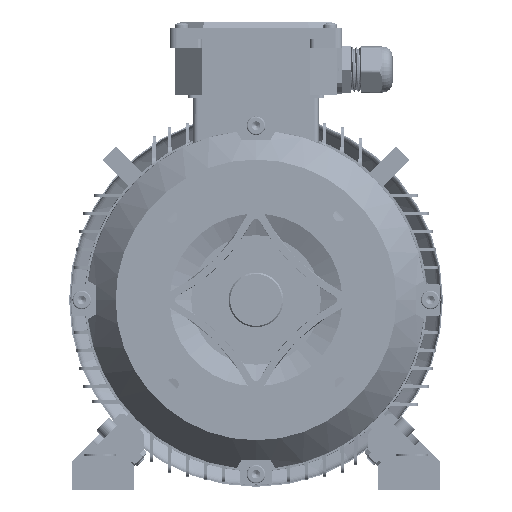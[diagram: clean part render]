
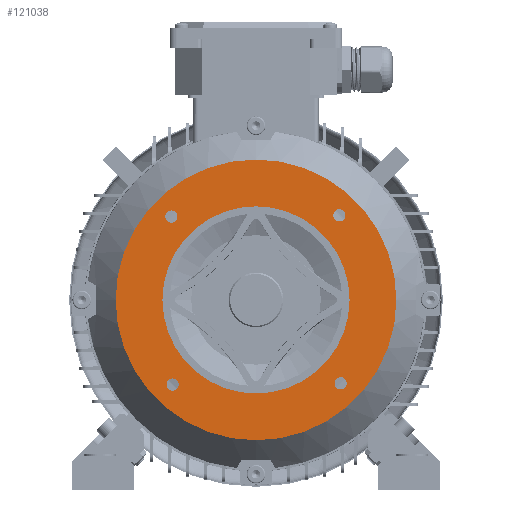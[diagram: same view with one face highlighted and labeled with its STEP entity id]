
A CAD part, front view. The second image highlights one B-rep face of the part: STEP entity #121038.
In plain terms, the highlighted planar face has unit normal (0, -1, 0).
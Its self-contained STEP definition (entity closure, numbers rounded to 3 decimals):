
#392 = DIRECTION ( 'NONE',  ( 0., -1., 0. ) ) ;
#883 = ORIENTED_EDGE ( 'NONE', *, *, #70312, .F. ) ;
#1687 = ORIENTED_EDGE ( 'NONE', *, *, #24263, .T. ) ;
#1729 = CIRCLE ( 'NONE', #34047, 97.5 ) ;
#2086 = VERTEX_POINT ( 'NONE', #39358 ) ;
#2671 = ORIENTED_EDGE ( 'NONE', *, *, #42822, .F. ) ;
#4557 = FACE_BOUND ( 'NONE', #40240, .T. ) ;
#6941 = EDGE_CURVE ( 'NONE', #78779, #116863, #59538, .T. ) ;
#7973 = EDGE_CURVE ( 'NONE', #116863, #78779, #114169, .T. ) ;
#10746 = DIRECTION ( 'NONE',  ( 0., -1., 0. ) ) ;
#11420 = ORIENTED_EDGE ( 'NONE', *, *, #45330, .F. ) ;
#12735 = EDGE_LOOP ( 'NONE', ( #109803, #90464 ) ) ;
#17352 = DIRECTION ( 'NONE',  ( 0., -1., 0. ) ) ;
#17660 = DIRECTION ( 'NONE',  ( 0., -1., 0. ) ) ;
#18830 = DIRECTION ( 'NONE',  ( 0., -1., 0. ) ) ;
#19884 = VERTEX_POINT ( 'NONE', #52009 ) ;
#19979 = VERTEX_POINT ( 'NONE', #120000 ) ;
#23444 = AXIS2_PLACEMENT_3D ( 'NONE', #101261, #35581, #112327 ) ;
#24263 = EDGE_CURVE ( 'NONE', #106364, #41618, #1729, .T. ) ;
#24950 = DIRECTION ( 'NONE',  ( 0., -1., 0. ) ) ;
#29500 = CARTESIAN_POINT ( 'NONE',  ( -58.783, 3.5, 57.886 ) ) ;
#33642 = FACE_BOUND ( 'NONE', #121980, .T. ) ;
#34047 = AXIS2_PLACEMENT_3D ( 'NONE', #84430, #18830, #95501 ) ;
#35581 = DIRECTION ( 'NONE',  ( 0., -1., 0. ) ) ;
#36623 = CIRCLE ( 'NONE', #89802, 65. ) ;
#39358 = CARTESIAN_POINT ( 'NONE',  ( 0., 3.5, 65. ) ) ;
#39589 = CARTESIAN_POINT ( 'NONE',  ( -58.783, 3.5, 53.636 ) ) ;
#40240 = EDGE_LOOP ( 'NONE', ( #54831, #112529 ) ) ;
#40545 = DIRECTION ( 'NONE',  ( 0., 0., -1. ) ) ;
#40851 = EDGE_CURVE ( 'NONE', #139960, #2086, #36623, .T. ) ;
#41618 = VERTEX_POINT ( 'NONE', #90517 ) ;
#42822 = EDGE_CURVE ( 'NONE', #90842, #19979, #120413, .T. ) ;
#45330 = EDGE_CURVE ( 'NONE', #124484, #19884, #112910, .T. ) ;
#46366 = DIRECTION ( 'NONE',  ( 0., -1., 0. ) ) ;
#47832 = VERTEX_POINT ( 'NONE', #51243 ) ;
#47929 = CARTESIAN_POINT ( 'NONE',  ( 58.783, 3.5, -57.886 ) ) ;
#50653 = CIRCLE ( 'NONE', #63890, 65. ) ;
#50942 = PLANE ( 'NONE',  #117015 ) ;
#51099 = CIRCLE ( 'NONE', #23444, 4.25 ) ;
#51243 = CARTESIAN_POINT ( 'NONE',  ( -57.886, 3.5, -63.033 ) ) ;
#51947 = EDGE_LOOP ( 'NONE', ( #11420, #883 ) ) ;
#52009 = CARTESIAN_POINT ( 'NONE',  ( -58.783, 3.5, 62.136 ) ) ;
#52589 = ORIENTED_EDGE ( 'NONE', *, *, #6941, .F. ) ;
#53926 = DIRECTION ( 'NONE',  ( 0., -1., 0. ) ) ;
#54831 = ORIENTED_EDGE ( 'NONE', *, *, #40851, .F. ) ;
#55203 = CARTESIAN_POINT ( 'NONE',  ( 0., 3.5, -65. ) ) ;
#56487 = AXIS2_PLACEMENT_3D ( 'NONE', #90579, #24950, #101672 ) ;
#58916 = DIRECTION ( 'NONE',  ( 0., 0., -1. ) ) ;
#59520 = EDGE_LOOP ( 'NONE', ( #52589, #127537 ) ) ;
#59538 = CIRCLE ( 'NONE', #70179, 4.25 ) ;
#60580 = DIRECTION ( 'NONE',  ( 0., -1., 0. ) ) ;
#60753 = AXIS2_PLACEMENT_3D ( 'NONE', #83277, #17660, #94337 ) ;
#62303 = AXIS2_PLACEMENT_3D ( 'NONE', #29500, #106237, #40545 ) ;
#62509 = DIRECTION ( 'NONE',  ( 0., -1., 0. ) ) ;
#62844 = FACE_BOUND ( 'NONE', #12735, .T. ) ;
#63890 = AXIS2_PLACEMENT_3D ( 'NONE', #66002, #392, #77023 ) ;
#64917 = EDGE_CURVE ( 'NONE', #83393, #47832, #104351, .T. ) ;
#66002 = CARTESIAN_POINT ( 'NONE',  ( 0., 3.5, 0. ) ) ;
#70119 = CARTESIAN_POINT ( 'NONE',  ( 57.886, 3.5, 54.533 ) ) ;
#70179 = AXIS2_PLACEMENT_3D ( 'NONE', #128228, #62509, #139303 ) ;
#70312 = EDGE_CURVE ( 'NONE', #19884, #124484, #51099, .T. ) ;
#72822 = AXIS2_PLACEMENT_3D ( 'NONE', #112037, #46366, #123034 ) ;
#76368 = CARTESIAN_POINT ( 'NONE',  ( 0., 3.5, 0. ) ) ;
#77023 = DIRECTION ( 'NONE',  ( 0., 0., -1. ) ) ;
#78779 = VERTEX_POINT ( 'NONE', #141250 ) ;
#82851 = EDGE_CURVE ( 'NONE', #2086, #139960, #50653, .T. ) ;
#83277 = CARTESIAN_POINT ( 'NONE',  ( 57.886, 3.5, 58.783 ) ) ;
#83393 = VERTEX_POINT ( 'NONE', #121545 ) ;
#84430 = CARTESIAN_POINT ( 'NONE',  ( 0., 3.5, 0. ) ) ;
#87213 = CIRCLE ( 'NONE', #129642, 4.25 ) ;
#87281 = EDGE_LOOP ( 'NONE', ( #128242, #1687 ) ) ;
#87350 = DIRECTION ( 'NONE',  ( 0., 0., -1. ) ) ;
#89802 = AXIS2_PLACEMENT_3D ( 'NONE', #76368, #10746, #87350 ) ;
#90464 = ORIENTED_EDGE ( 'NONE', *, *, #64917, .F. ) ;
#90517 = CARTESIAN_POINT ( 'NONE',  ( 0., 3.5, 97.5 ) ) ;
#90579 = CARTESIAN_POINT ( 'NONE',  ( -57.886, 3.5, -58.783 ) ) ;
#90842 = VERTEX_POINT ( 'NONE', #70119 ) ;
#91945 = FACE_OUTER_BOUND ( 'NONE', #87281, .T. ) ;
#94337 = DIRECTION ( 'NONE',  ( 0., 0., -1. ) ) ;
#95501 = DIRECTION ( 'NONE',  ( 0., 0., -1. ) ) ;
#97338 = EDGE_CURVE ( 'NONE', #19979, #90842, #87213, .T. ) ;
#101261 = CARTESIAN_POINT ( 'NONE',  ( -58.783, 3.5, 57.886 ) ) ;
#101672 = DIRECTION ( 'NONE',  ( 0., 0., -1. ) ) ;
#102333 = FACE_BOUND ( 'NONE', #51947, .T. ) ;
#102752 = ORIENTED_EDGE ( 'NONE', *, *, #97338, .F. ) ;
#103393 = AXIS2_PLACEMENT_3D ( 'NONE', #47929, #124583, #58916 ) ;
#104351 = CIRCLE ( 'NONE', #122978, 4.25 ) ;
#104648 = CARTESIAN_POINT ( 'NONE',  ( 0., 3.5, -97.5 ) ) ;
#106237 = DIRECTION ( 'NONE',  ( 0., -1., 0. ) ) ;
#106364 = VERTEX_POINT ( 'NONE', #104648 ) ;
#107183 = CIRCLE ( 'NONE', #56487, 4.25 ) ;
#109803 = ORIENTED_EDGE ( 'NONE', *, *, #113436, .F. ) ;
#112037 = CARTESIAN_POINT ( 'NONE',  ( 0., 3.5, 0. ) ) ;
#112327 = DIRECTION ( 'NONE',  ( 0., 0., -1. ) ) ;
#112529 = ORIENTED_EDGE ( 'NONE', *, *, #82851, .F. ) ;
#112910 = CIRCLE ( 'NONE', #62303, 4.25 ) ;
#113436 = EDGE_CURVE ( 'NONE', #47832, #83393, #107183, .T. ) ;
#114169 = CIRCLE ( 'NONE', #103393, 4.25 ) ;
#116863 = VERTEX_POINT ( 'NONE', #139585 ) ;
#117015 = AXIS2_PLACEMENT_3D ( 'NONE', #127603, #17352, #138712 ) ;
#119597 = CARTESIAN_POINT ( 'NONE',  ( -57.886, 3.5, -58.783 ) ) ;
#120000 = CARTESIAN_POINT ( 'NONE',  ( 57.886, 3.5, 63.033 ) ) ;
#120413 = CIRCLE ( 'NONE', #60753, 4.25 ) ;
#121038 = ADVANCED_FACE ( 'NONE', ( #102333, #33642, #128074, #62844, #91945, #4557 ), #50942, .T. ) ;
#121545 = CARTESIAN_POINT ( 'NONE',  ( -57.886, 3.5, -54.533 ) ) ;
#121980 = EDGE_LOOP ( 'NONE', ( #2671, #102752 ) ) ;
#122978 = AXIS2_PLACEMENT_3D ( 'NONE', #119597, #53926, #130640 ) ;
#123034 = DIRECTION ( 'NONE',  ( 0., 0., -1. ) ) ;
#124484 = VERTEX_POINT ( 'NONE', #39589 ) ;
#124583 = DIRECTION ( 'NONE',  ( 0., -1., 0. ) ) ;
#126259 = CARTESIAN_POINT ( 'NONE',  ( 57.886, 3.5, 58.783 ) ) ;
#127537 = ORIENTED_EDGE ( 'NONE', *, *, #7973, .F. ) ;
#127603 = CARTESIAN_POINT ( 'NONE',  ( 65., 3.5, 0. ) ) ;
#128074 = FACE_BOUND ( 'NONE', #59520, .T. ) ;
#128228 = CARTESIAN_POINT ( 'NONE',  ( 58.783, 3.5, -57.886 ) ) ;
#128242 = ORIENTED_EDGE ( 'NONE', *, *, #133082, .T. ) ;
#129642 = AXIS2_PLACEMENT_3D ( 'NONE', #126259, #60580, #137317 ) ;
#130640 = DIRECTION ( 'NONE',  ( 0., 0., -1. ) ) ;
#133082 = EDGE_CURVE ( 'NONE', #41618, #106364, #139079, .T. ) ;
#137317 = DIRECTION ( 'NONE',  ( 0., 0., -1. ) ) ;
#138712 = DIRECTION ( 'NONE',  ( 0., 0., -1. ) ) ;
#139079 = CIRCLE ( 'NONE', #72822, 97.5 ) ;
#139303 = DIRECTION ( 'NONE',  ( 0., 0., -1. ) ) ;
#139585 = CARTESIAN_POINT ( 'NONE',  ( 58.783, 3.5, -53.636 ) ) ;
#139960 = VERTEX_POINT ( 'NONE', #55203 ) ;
#141250 = CARTESIAN_POINT ( 'NONE',  ( 58.783, 3.5, -62.136 ) ) ;
